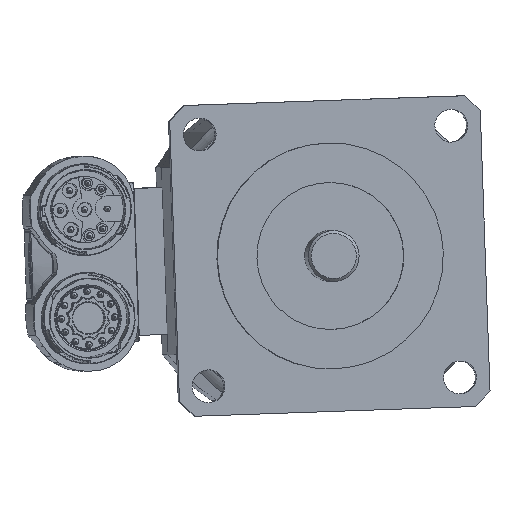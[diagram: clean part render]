
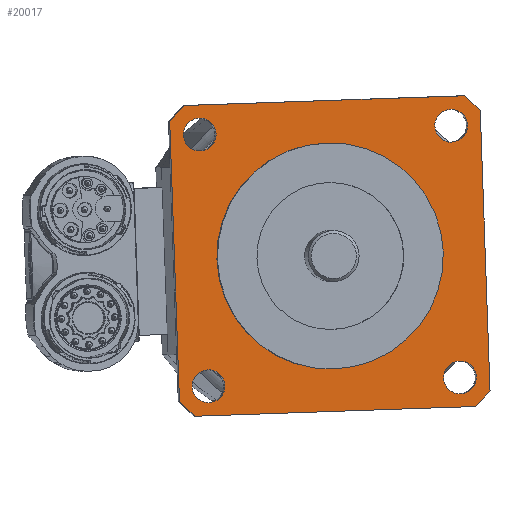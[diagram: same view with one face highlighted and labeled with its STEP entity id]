
A CAD part, left-side view. The second image highlights one B-rep face of the part: STEP entity #20017.
In plain terms, the highlighted planar face has unit normal (-0.999, -0.035, 0) as drawn and (0, 0, -1) by its records, which use the part's own axes.
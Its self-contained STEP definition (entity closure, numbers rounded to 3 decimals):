
#2174=CIRCLE('',#21404,2.9);
#2175=CIRCLE('',#21405,2.9);
#2176=CIRCLE('',#21406,2.9);
#2177=CIRCLE('',#21407,2.9);
#2179=CIRCLE('',#21410,20.);
#2180=CIRCLE('',#21413,37.);
#2181=CIRCLE('',#21416,37.);
#2182=CIRCLE('',#21419,37.);
#2183=CIRCLE('',#21422,37.);
#3213=VERTEX_POINT('',#28772);
#3214=VERTEX_POINT('',#28792);
#3215=VERTEX_POINT('',#28812);
#3216=VERTEX_POINT('',#28832);
#3218=VERTEX_POINT('',#28837);
#3219=VERTEX_POINT('',#28841);
#3220=VERTEX_POINT('',#28842);
#3221=VERTEX_POINT('',#28847);
#3222=VERTEX_POINT('',#28851);
#3223=VERTEX_POINT('',#28855);
#3224=VERTEX_POINT('',#28859);
#3225=VERTEX_POINT('',#28863);
#3226=VERTEX_POINT('',#28867);
#5173=VECTOR('',#23597,1.);
#5176=VECTOR('',#23605,1.);
#5179=VECTOR('',#23613,1.);
#5182=VECTOR('',#23621,1.);
#6313=LINE('',#28846,#5173);
#6316=LINE('',#28854,#5176);
#6319=LINE('',#28862,#5179);
#6322=LINE('',#28870,#5182);
#7506=EDGE_CURVE('',#3213,#3213,#2174,.T.);
#7507=EDGE_CURVE('',#3214,#3214,#2175,.T.);
#7508=EDGE_CURVE('',#3215,#3215,#2176,.T.);
#7509=EDGE_CURVE('',#3216,#3216,#2177,.T.);
#7511=EDGE_CURVE('',#3218,#3218,#2179,.T.);
#7512=EDGE_CURVE('',#3219,#3220,#2180,.T.);
#7515=EDGE_CURVE('',#3220,#3221,#6313,.T.);
#7517=EDGE_CURVE('',#3221,#3222,#2181,.T.);
#7519=EDGE_CURVE('',#3222,#3223,#6316,.T.);
#7521=EDGE_CURVE('',#3223,#3224,#2182,.T.);
#7523=EDGE_CURVE('',#3224,#3225,#6319,.T.);
#7525=EDGE_CURVE('',#3225,#3226,#2183,.T.);
#7527=EDGE_CURVE('',#3226,#3219,#6322,.T.);
#10729=ORIENTED_EDGE('',*,*,#7512,.F.);
#10730=ORIENTED_EDGE('',*,*,#7527,.F.);
#10731=ORIENTED_EDGE('',*,*,#7525,.F.);
#10732=ORIENTED_EDGE('',*,*,#7523,.F.);
#10733=ORIENTED_EDGE('',*,*,#7521,.F.);
#10734=ORIENTED_EDGE('',*,*,#7519,.F.);
#10735=ORIENTED_EDGE('',*,*,#7517,.F.);
#10736=ORIENTED_EDGE('',*,*,#7515,.F.);
#10737=ORIENTED_EDGE('',*,*,#7506,.T.);
#10738=ORIENTED_EDGE('',*,*,#7507,.T.);
#10739=ORIENTED_EDGE('',*,*,#7508,.T.);
#10740=ORIENTED_EDGE('',*,*,#7509,.T.);
#10741=ORIENTED_EDGE('',*,*,#7511,.T.);
#16860=EDGE_LOOP('',(#10729,#10730,#10731,#10732,#10733,#10734,#10735,#10736));
#16861=EDGE_LOOP('',(#10737));
#16862=EDGE_LOOP('',(#10738));
#16863=EDGE_LOOP('',(#10739));
#16864=EDGE_LOOP('',(#10740));
#16865=EDGE_LOOP('',(#10741));
#18446=FACE_BOUND('',#16860,.T.);
#18447=FACE_BOUND('',#16861,.T.);
#18448=FACE_BOUND('',#16862,.T.);
#18449=FACE_BOUND('',#16863,.T.);
#18450=FACE_BOUND('',#16864,.T.);
#18451=FACE_BOUND('',#16865,.T.);
#20017=ADVANCED_FACE('',(#18446,#18447,#18448,#18449,#18450,#18451),#69693,
 .F.);
#21404=AXIS2_PLACEMENT_3D('',#28771,#23575,#23576);
#21405=AXIS2_PLACEMENT_3D('',#28791,#23577,#23578);
#21406=AXIS2_PLACEMENT_3D('',#28811,#23579,#23580);
#21407=AXIS2_PLACEMENT_3D('',#28831,#23581,#23582);
#21410=AXIS2_PLACEMENT_3D('',#28836,#23587,#23588);
#21413=AXIS2_PLACEMENT_3D('',#28840,#23592,#23593);
#21416=AXIS2_PLACEMENT_3D('',#28850,#23601,#23602);
#21419=AXIS2_PLACEMENT_3D('',#28858,#23609,#23610);
#21422=AXIS2_PLACEMENT_3D('',#28866,#23617,#23618);
#21424=AXIS2_PLACEMENT_3D('',#28871,#23622,$);
#23575=DIRECTION('',(0.,0.,1.));
#23576=DIRECTION('',(-2.9,0.,0.));
#23577=DIRECTION('',(0.,0.,1.));
#23578=DIRECTION('',(-2.9,0.,0.));
#23579=DIRECTION('',(0.,0.,1.));
#23580=DIRECTION('',(-2.9,0.,0.));
#23581=DIRECTION('',(0.,0.,1.));
#23582=DIRECTION('',(-2.9,0.,0.));
#23587=DIRECTION('',(0.,0.,1.));
#23588=DIRECTION('',(20.,0.,0.));
#23592=DIRECTION('',(0.,0.,1.));
#23593=DIRECTION('',(27.5,-24.754,0.));
#23597=DIRECTION('',(0.,-1.,0.));
#23601=DIRECTION('',(0.,0.,1.));
#23602=DIRECTION('',(24.754,27.5,0.));
#23605=DIRECTION('',(1.,0.,0.));
#23609=DIRECTION('',(0.,0.,1.));
#23610=DIRECTION('',(-27.5,24.754,0.));
#23613=DIRECTION('',(0.,1.,0.));
#23617=DIRECTION('',(0.,0.,1.));
#23618=DIRECTION('',(-24.754,-27.5,0.));
#23621=DIRECTION('',(-1.,0.,0.));
#23622=DIRECTION('',(0.,0.,1.));
#28771=CARTESIAN_POINT('',(-22.274,-22.274,-63.5));
#28772=CARTESIAN_POINT('',(-25.174,-22.274,-63.5));
#28791=CARTESIAN_POINT('',(22.274,22.274,-63.5));
#28792=CARTESIAN_POINT('',(19.374,22.274,-63.5));
#28811=CARTESIAN_POINT('',(22.274,-22.274,-63.5));
#28812=CARTESIAN_POINT('',(19.374,-22.274,-63.5));
#28831=CARTESIAN_POINT('',(-22.274,22.274,-63.5));
#28832=CARTESIAN_POINT('',(-25.174,22.274,-63.5));
#28836=CARTESIAN_POINT('',(0.,0.,-63.5));
#28837=CARTESIAN_POINT('',(-20.,0.,-63.5));
#28840=CARTESIAN_POINT('',(0.,0.,-63.5));
#28841=CARTESIAN_POINT('',(-24.754,27.5,-63.5));
#28842=CARTESIAN_POINT('',(-27.5,24.754,-63.5));
#28846=CARTESIAN_POINT('',(-27.5,24.754,-63.5));
#28847=CARTESIAN_POINT('',(-27.5,-24.754,-63.5));
#28850=CARTESIAN_POINT('',(0.,0.,-63.5));
#28851=CARTESIAN_POINT('',(-24.754,-27.5,-63.5));
#28854=CARTESIAN_POINT('',(-24.754,-27.5,-63.5));
#28855=CARTESIAN_POINT('',(24.754,-27.5,-63.5));
#28858=CARTESIAN_POINT('',(0.,0.,-63.5));
#28859=CARTESIAN_POINT('',(27.5,-24.754,-63.5));
#28862=CARTESIAN_POINT('',(27.5,-24.754,-63.5));
#28863=CARTESIAN_POINT('',(27.5,24.754,-63.5));
#28866=CARTESIAN_POINT('',(0.,0.,-63.5));
#28867=CARTESIAN_POINT('',(24.754,27.5,-63.5));
#28870=CARTESIAN_POINT('',(24.754,27.5,-63.5));
#28871=CARTESIAN_POINT('',(0.,0.,-63.5));
#69693=PLANE('',#21424);
